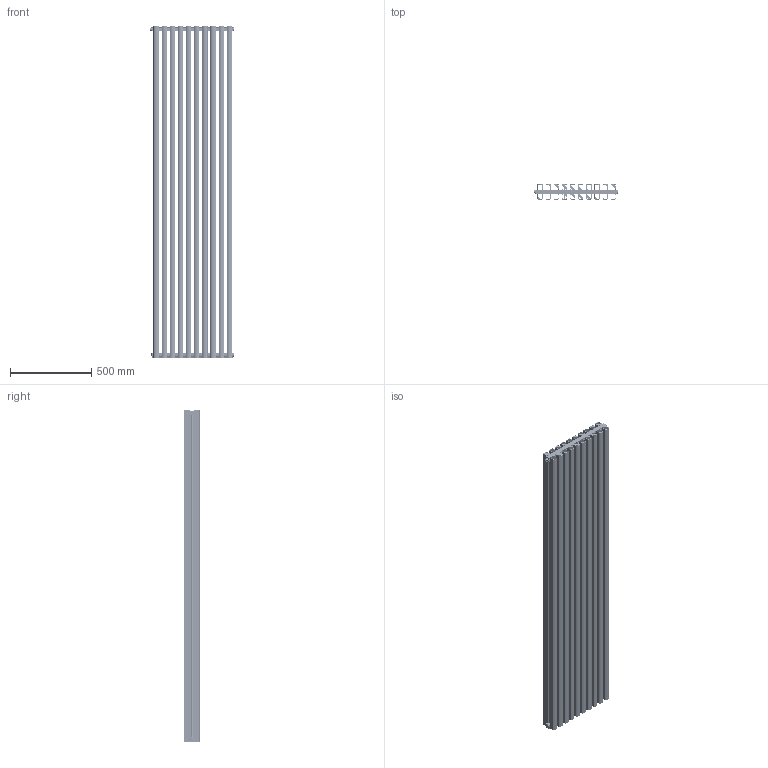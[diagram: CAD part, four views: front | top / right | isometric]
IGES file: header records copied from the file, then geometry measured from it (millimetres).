
Start section: SolidWorks IGES file using analytic representation for surfaces
Global section: file name: S:\RicercaSviluppo\01_DISEGNI\2_DISEGNI\02_ELEMENTI\39_TONALE\39_99_RICHIESTE CLIENTI\39_99_DRL\22-07-24\TONALE 2000_10.IGS; native system: SolidWorks 2024; preprocessor: SolidWorks 2024; author: massimo; date: 240722.104441; units: millimetre
Bounding box: 516.3 x 95 x 2039.3 mm (x, y, z)
Surface area: 14714505.1 mm2 (no closed solid volume)
Topology: 0 solids, 0 shells, 6014 faces, 73277 edges, 73157 vertices
Faces by surface type: revolution 3124, bspline 2890
